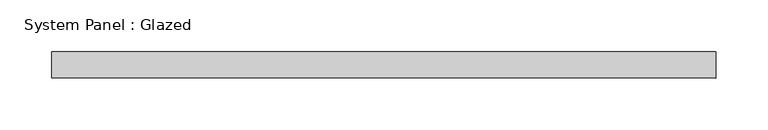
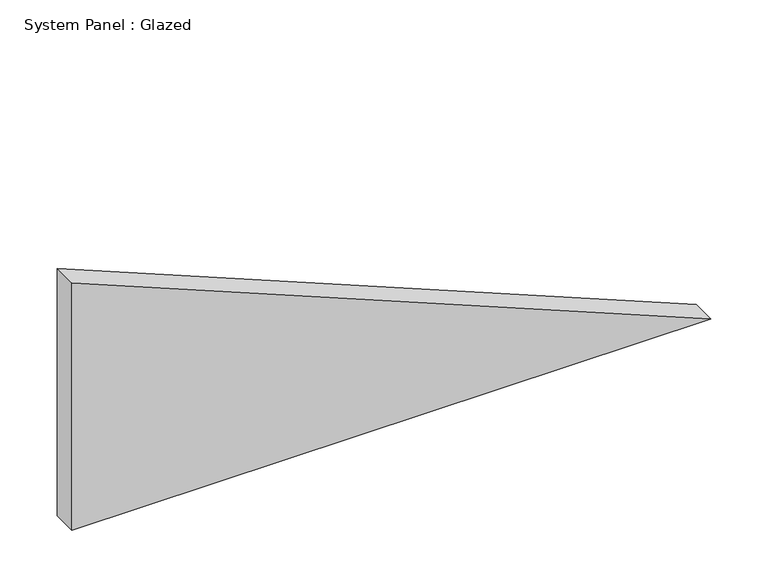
"""IFC4 building model written with IfcOpenShell, lengths in millimetres: plate geometry, System Panel : Glazed."""

from ifc_helpers import new_model, si_unit, frame, origin, place, context, project, spatial, polyline, outline, extrude, source, transform, mapped, element, save


def system_panel_glazed_53edb0c8(model_context):
    return source(origin(), model_context, "Body", "SweptSolid", [
        extrude(outline(polyline([(0.0, -321.2669766), (0.0, 321.2669766), (263.2851273, -321.2669766), (0.0, -321.2669766)])), frame((0.0, 19.05, 0.0), z_axis=(0.0, 1.0, 0.0), x_axis=(0.0, 0.0, 1.0)), (0.0, 0.0, 1.0), 25.4),
    ])


if __name__ == "__main__":
    model = new_model("IFC4")
    model_context = context("Model", 3, world=origin())
    ifc_project = project(units=[si_unit("LENGTHUNIT", "METRE", prefix="MILLI")], contexts=[model_context])
    site = spatial("IfcSite", under=ifc_project)
    building = spatial("IfcBuilding", under=site)
    placement = place(None, origin())
    system_panel_glazed_shape = system_panel_glazed_53edb0c8(model_context)
    element("IfcPlate", 1, ObjectType="System Panel : Glazed", at=placement, inside=building, context=model_context, shape_type="MappedRepresentation", body=[
        mapped(system_panel_glazed_shape, transform((0.0, 0.0, 0.0), x_axis=(1.0, 0.0, 0.0), y_axis=(0.0, 1.0, 0.0), z_axis=(0.0, 0.0, 1.0))),
    ])
    save(model, "model.ifc")
